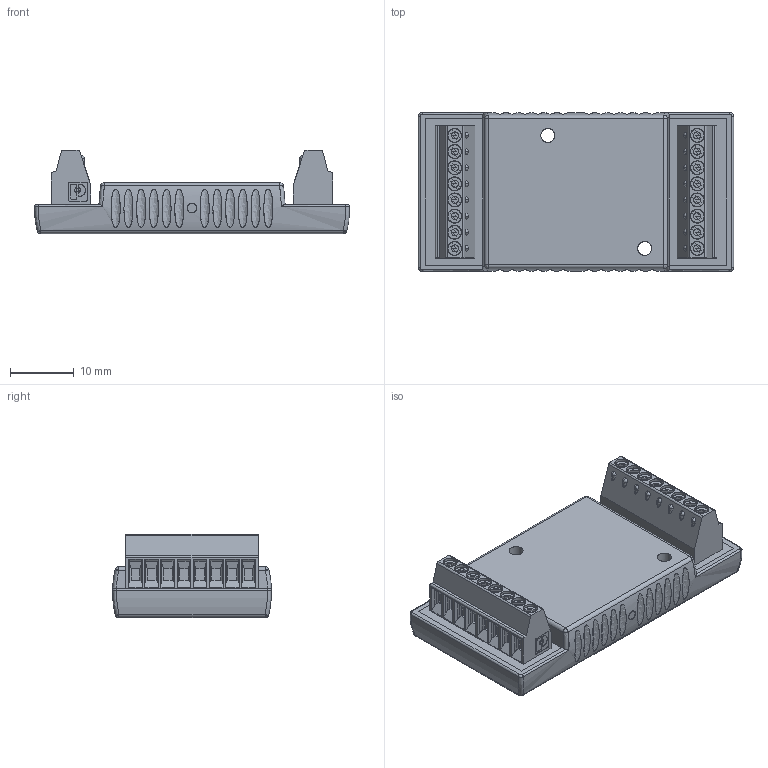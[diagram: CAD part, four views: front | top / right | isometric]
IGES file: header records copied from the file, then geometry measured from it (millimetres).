
Global section: file name: D:\Daten-Huge\PLM_Export\Huellen_aufbr\20120404_fuer_Vertrieb\MC3002S.igs; native system: NX V7.5; preprocessor: SIEMENS PLM Software NX 7.5; author: DR. FRITZ FAULHABER GmbH & Co. KG; organization: DR. FRITZ FAULHABER GmbH & Co. KG; date: 20120404.105349; units: millimetre
Bounding box: 49.59 x 25 x 13.1 mm (x, y, z)
Surface area: 4836.9 mm2 (no closed solid volume)
Topology: 0 solids, 0 shells, 858 faces, 4742 edges, 4721 vertices
Faces by surface type: bspline 858
